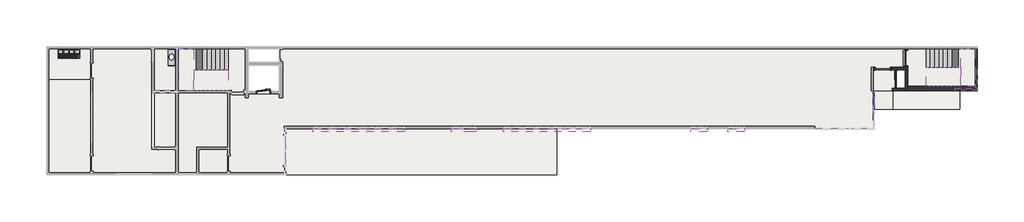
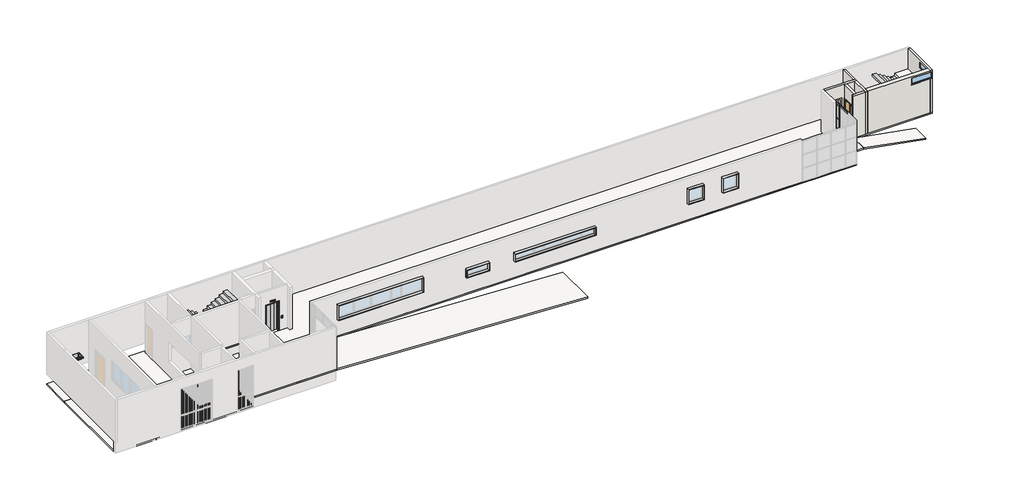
# One storey, part 3 of 3: 16 members, 8 slabs, 7 proxies, 7 walls, 5 plates, 4 furniture elements, 4 stair flights, 3 doors, 2 windows.
"""IFC4 building model written with IfcOpenShell, lengths in millimetres."""

from ifc_helpers import new_model, si_unit, frame, origin, origin_with_axes, place, context, project, spatial, polyline, outline, extrude, faceted_brep, transform, mapped, element, save
from components import generic_models_4572489e, generic_models_d0349c49, generic_models_a6553102, lift_side_door_aus_6_person_450kg_load_f6ec1226, moldura_02_moldura_02_4cf05638, moldura_03_moldura_03_e8738a7e, moldura_04_moldura_04_ba35fd01, moldura_moldura_8656ffbe, door_100_x_210_cm_40a421d0, door_1000_x_2100_mm_77822ca1, door_1200_x_2100mm_dfe7479b, furniture_e1e120f5, furniture_ba68da85, bancada_14b2be34, rectangular_mullion_4x4_cm_offset_2cm_f367b127, rectangular_mullion_4x4_cm_offset_2cm_0519d578, rectangular_mullion_4x4_cm_offset_2cm_dcd03643, rectangular_mullion_4x4_cm_offset_2cm_ddc5f716, rectangular_mullion_4x4_cm_offset_2cm_859eeaea, rectangular_mullion_4x4_cm_offset_2cm_f24be0eb, rectangular_mullion_4x4_cm_offset_2cm_d0d282c4, rectangular_mullion_4x4_cm_offset_2cm_647ac1ba, system_panel_vidro_2cm_b9699863, system_panel_vidro_2cm_0b33bc8a, system_panel_vidro_2cm_fc770f58, aluminum_exterior_window_2_wide_3886_1_20_x_0_50m_2c522d7e, aluminum_exterior_window_2_wide_3886_1_45_x_0_50m_3d7411e8

model = new_model("IFC4")

# Units and contexts
model_context = context("Model", 3, world=origin())
ifc_project = project(units=[si_unit("LENGTHUNIT", "METRE", prefix="MILLI")], contexts=[model_context])

# Site, building, storey
site = spatial("IfcSite", under=ifc_project)
building = spatial("IfcBuilding", under=site)
storey = spatial("IfcBuildingStorey", under=building, Name="PLANTA BAIXA TÉRREO", Elevation=800.0)

# Proxies
placement = place(None, origin())
generic_models_shape = generic_models_4572489e(model_context)
element("IfcBuildingElementProxy", 1, Name="Moldura Janelas Câmara : Moldura Janelas Câmara", ObjectType="Moldura Janelas Câmara : Moldura Janelas Câmara", at=placement, inside=storey, context=model_context, shape_type="MappedRepresentation", body=[
    mapped(generic_models_shape, transform((0.0, 0.0, 0.0), x_axis=(1.0, 0.0, 0.0), y_axis=(0.0, 1.0, 0.0), z_axis=(0.0, 0.0, 1.0))),
])
generic_models_2_shape = generic_models_d0349c49(model_context)
generic_models_3_shape = generic_models_a6553102(model_context)
element("IfcBuildingElementProxy", 2, Name="Tanque 2 cubas retangulares : Tanque 2 cubas retangulares", ObjectType="Tanque 2 cubas retangulares : Tanque 2 cubas retangulares", at=placement, inside=storey, context=model_context, shape_type="MappedRepresentation", body=[
    mapped(generic_models_2_shape, transform((-15954.6326345, -2911.1116245, 800.0), x_axis=(1.0, 0.0, 0.0), y_axis=(0.0, 1.0, 0.0), z_axis=(0.0, 0.0, 1.0))),
    mapped(generic_models_3_shape, transform((-15954.6326345, -2911.1116245, 800.0), x_axis=(1.0, 0.0, 0.0), y_axis=(0.0, 1.0, 0.0), z_axis=(0.0, 0.0, 1.0))),
])
lift_side_door_aus_6_person_450kg_load_shape = lift_side_door_aus_6_person_450kg_load_f6ec1226(model_context)
element("IfcBuildingElementProxy", 3, Name="Lift - Side Door (AUS) : 6 Person 450kg load", ObjectType="Lift - Side Door (AUS) : 6 Person 450kg load", at=placement, inside=storey, context=model_context, shape_type="MappedRepresentation", body=[
    mapped(lift_side_door_aus_6_person_450kg_load_shape, transform((-3085.7183499, -5716.1116245, 800.0), x_axis=(-1.0, 0.0, 0.0), y_axis=(0.0, -1.0, 0.0), z_axis=(0.0, 0.0, 1.0))),
])
moldura_02_moldura_02_shape = moldura_02_moldura_02_4cf05638(model_context)
element("IfcBuildingElementProxy", 4, Name="Moldura 02 : Moldura 02", ObjectType="Moldura 02 : Moldura 02", at=placement, inside=storey, context=model_context, shape_type="MappedRepresentation", body=[
    mapped(moldura_02_moldura_02_shape, transform((0.0, 0.0, 0.0), x_axis=(1.0, 0.0, 0.0), y_axis=(0.0, 1.0, 0.0), z_axis=(0.0, 0.0, 1.0))),
])
moldura_03_moldura_03_shape = moldura_03_moldura_03_e8738a7e(model_context)
element("IfcBuildingElementProxy", 5, Name="Moldura 03 : Moldura 03", ObjectType="Moldura 03 : Moldura 03", at=placement, inside=storey, context=model_context, shape_type="MappedRepresentation", body=[
    mapped(moldura_03_moldura_03_shape, transform((0.0, 0.0, 0.0), x_axis=(1.0, 0.0, 0.0), y_axis=(0.0, 1.0, 0.0), z_axis=(0.0, 0.0, 1.0))),
])
moldura_04_moldura_04_shape = moldura_04_moldura_04_ba35fd01(model_context)
element("IfcBuildingElementProxy", 6, Name="Moldura 04 : Moldura 04", ObjectType="Moldura 04 : Moldura 04", at=placement, inside=storey, context=model_context, shape_type="MappedRepresentation", body=[
    mapped(moldura_04_moldura_04_shape, transform((0.0, 0.0, 0.0), x_axis=(1.0, 0.0, 0.0), y_axis=(0.0, 1.0, 0.0), z_axis=(0.0, 0.0, 1.0))),
])
moldura_moldura_shape = moldura_moldura_8656ffbe(model_context)
element("IfcBuildingElementProxy", 7, Name="Moldura : Moldura", ObjectType="Moldura : Moldura", at=placement, inside=storey, context=model_context, shape_type="MappedRepresentation", body=[
    mapped(moldura_moldura_shape, transform((0.0, 0.0, 0.0), x_axis=(1.0, 0.0, 0.0), y_axis=(0.0, 1.0, 0.0), z_axis=(0.0, 0.0, 1.0))),
])

# Doors
door_100_x_210_cm_shape = door_100_x_210_cm_40a421d0(model_context)
element("IfcDoor", 8, ObjectType="Dutch_door_-_2_stacked_leaves_2298 : 100 x 210 cm", at=placement, inside=storey, context=model_context, shape_type="MappedRepresentation", body=[
    mapped(door_100_x_210_cm_shape, transform((38160.3673655, -3491.1116245, 800.0), x_axis=(0.0, 1.0, 0.0), y_axis=(-1.0, 0.0, 0.0), z_axis=(0.0, 0.0, 1.0))),
])
door_1000_x_2100_mm_shape = door_1000_x_2100_mm_77822ca1(model_context)
element("IfcDoor", 9, ObjectType="M_Folha única : 1000 x 2100 mm", at=placement, inside=storey, context=model_context, shape_type="MappedRepresentation", body=[
    mapped(door_1000_x_2100_mm_shape, transform((36635.3673655, -4166.1116245, 800.0), x_axis=(-1.0, 0.0, 0.0), y_axis=(0.0, -1.0, 0.0), z_axis=(0.0, 0.0, 1.0))),
])
door_1200_x_2100mm_shape = door_1200_x_2100mm_dfe7479b(model_context)
element("IfcDoor", 10, ObjectType="Porta veneziana de correr dupla sem revestimento : 1200 x 2100mm", at=placement, inside=storey, context=model_context, shape_type="MappedRepresentation", body=[
    mapped(door_1200_x_2100mm_shape, transform((37470.3673655, -4841.6581516, 800.0), x_axis=(0.0, -1.0, 0.0), y_axis=(1.0, 0.0, 0.0), z_axis=(0.0, 0.0, 1.0))),
])

# Furniture
furniture_shape = furniture_e1e120f5(model_context)
element("IfcFurniture", 11, ObjectType="Frontispício : Frontispício", at=placement, inside=storey, context=model_context, shape_type="MappedRepresentation", body=[
    mapped(furniture_shape, transform((-9054.6326345, -3822.9261126, 1100.0), x_axis=(0.0, -1.0, 0.0), y_axis=(1.0, 0.0, 0.0), z_axis=(0.0, 0.0, 1.0))),
])
furniture_2_shape = furniture_ba68da85(model_context)
element("IfcFurniture", 12, ObjectType="Frontispício : Frontispício", at=placement, inside=storey, context=model_context, shape_type="MappedRepresentation", body=[
    mapped(furniture_2_shape, transform((-9248.3102534, -2906.6037372, 1100.0), x_axis=(1.0000000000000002, 0.0, 0.0), y_axis=(0.0, 1.0000000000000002, 0.0), z_axis=(0.0, 0.0, 1.0))),
])
element("IfcFurniture", 13, ObjectType="Frontispício : Frontispício", at=placement, inside=storey, context=model_context, shape_type="MappedRepresentation", body=[
    mapped(furniture_2_shape, transform((-9248.3102534, -3976.6037316, 1100.0), x_axis=(1.0, 0.0, 0.0), y_axis=(0.0, 1.0, 0.0), z_axis=(0.0, 0.0, 1.0))),
])
bancada_shape = bancada_14b2be34(model_context)
element("IfcFurniture", 14, ObjectType="Bancada Retangular para lavatório Cuba Oval com Torneira Chanfro : Bancada", at=placement, inside=storey, context=model_context, shape_type="MappedRepresentation", body=[
    mapped(bancada_shape, transform((-9054.6326345, -3481.9034108, 100.0), x_axis=(0.0, -1.0, 0.0), y_axis=(1.0, 0.0, 0.0), z_axis=(0.0, 0.0, 1.0))),
])

# Members
rectangular_mullion_4x4_cm_offset_2cm_shape = rectangular_mullion_4x4_cm_offset_2cm_f367b127(model_context)
element("IfcMember", 15, ObjectType="Rectangular Mullion : 4x4 cm - offset 2cm", at=placement, inside=storey, context=model_context, shape_type="MappedRepresentation", body=[
    mapped(rectangular_mullion_4x4_cm_offset_2cm_shape, transform((36035.3673655, -6041.1116242, 840.0), x_axis=(0.0, 1.0, 0.0), y_axis=(1.0, 0.0, 0.0), z_axis=(0.0, 0.0, -1.0))),
])
element("IfcMember", 16, ObjectType="Rectangular Mullion : 4x4 cm - offset 2cm", at=placement, inside=storey, context=model_context, shape_type="MappedRepresentation", body=[
    mapped(rectangular_mullion_4x4_cm_offset_2cm_shape, transform((36035.3673655, -6041.1116242, 1840.0), x_axis=(0.0, 1.0, 0.0), y_axis=(1.0, 0.0, 0.0), z_axis=(0.0, 0.0, -1.0))),
])
element("IfcMember", 17, ObjectType="Rectangular Mullion : 4x4 cm - offset 2cm", at=placement, inside=storey, context=model_context, shape_type="MappedRepresentation", body=[
    mapped(rectangular_mullion_4x4_cm_offset_2cm_shape, transform((36035.3673655, -6041.1116242, 2840.0), x_axis=(0.0, 1.0, 0.0), y_axis=(1.0, 0.0, 0.0), z_axis=(0.0, 0.0, -1.0))),
])
rectangular_mullion_4x4_cm_offset_2cm_2_shape = rectangular_mullion_4x4_cm_offset_2cm_0519d578(model_context)
element("IfcMember", 18, ObjectType="Rectangular Mullion : 4x4 cm - offset 2cm", at=placement, inside=storey, context=model_context, shape_type="MappedRepresentation", body=[
    mapped(rectangular_mullion_4x4_cm_offset_2cm_2_shape, transform((36035.3673655, -5591.1116245, 840.0), x_axis=(0.0, 1.0, 0.0), y_axis=(1.0, 0.0, 0.0), z_axis=(0.0, 0.0, -1.0))),
])
rectangular_mullion_4x4_cm_offset_2cm_3_shape = rectangular_mullion_4x4_cm_offset_2cm_dcd03643(model_context)
element("IfcMember", 19, ObjectType="Rectangular Mullion : 4x4 cm - offset 2cm", at=placement, inside=storey, context=model_context, shape_type="MappedRepresentation", body=[
    mapped(rectangular_mullion_4x4_cm_offset_2cm_3_shape, transform((36035.3673655, -6041.1116242, 2800.0), x_axis=(0.0, 0.0, 1.0), y_axis=(1.0, 0.0, 0.0), z_axis=(0.0, 1.0, 0.0))),
])
element("IfcMember", 20, ObjectType="Rectangular Mullion : 4x4 cm - offset 2cm", at=placement, inside=storey, context=model_context, shape_type="MappedRepresentation", body=[
    mapped(rectangular_mullion_4x4_cm_offset_2cm_3_shape, transform((36035.3673655, -6041.1116242, 3800.0), x_axis=(0.0, 0.0, 1.0), y_axis=(1.0, 0.0, 0.0), z_axis=(0.0, 1.0, 0.0))),
])
rectangular_mullion_4x4_cm_offset_2cm_4_shape = rectangular_mullion_4x4_cm_offset_2cm_ddc5f716(model_context)
element("IfcMember", 21, ObjectType="Rectangular Mullion : 4x4 cm - offset 2cm", at=placement, inside=storey, context=model_context, shape_type="MappedRepresentation", body=[
    mapped(rectangular_mullion_4x4_cm_offset_2cm_4_shape, transform((36035.3673655, -6041.1116242, 4000.0), x_axis=(0.0, 0.0, 1.0), y_axis=(1.0, 0.0, 0.0), z_axis=(0.0, 1.0, 0.0))),
])
rectangular_mullion_4x4_cm_offset_2cm_5_shape = rectangular_mullion_4x4_cm_offset_2cm_859eeaea(model_context)
element("IfcMember", 22, ObjectType="Rectangular Mullion : 4x4 cm - offset 2cm", at=placement, inside=storey, context=model_context, shape_type="MappedRepresentation", body=[
    mapped(rectangular_mullion_4x4_cm_offset_2cm_5_shape, transform((36035.3673655, -6041.1116242, 3840.0), x_axis=(0.0, 1.0, 0.0), y_axis=(1.0, 0.0, 0.0), z_axis=(0.0, 0.0, -1.0))),
])
element("IfcMember", 23, ObjectType="Rectangular Mullion : 4x4 cm - offset 2cm", at=placement, inside=storey, context=model_context, shape_type="MappedRepresentation", body=[
    mapped(rectangular_mullion_4x4_cm_offset_2cm_4_shape, transform((36035.3673655, -5591.1116245, 1800.0), x_axis=(0.0, 1.0, 0.0), y_axis=(1.0, 0.0, 0.0), z_axis=(0.0, 0.0, -1.0))),
])
element("IfcMember", 24, ObjectType="Rectangular Mullion : 4x4 cm - offset 2cm", at=placement, inside=storey, context=model_context, shape_type="MappedRepresentation", body=[
    mapped(rectangular_mullion_4x4_cm_offset_2cm_4_shape, transform((36035.3673655, -5591.1116245, 2800.0), x_axis=(0.0, 1.0, 0.0), y_axis=(1.0, 0.0, 0.0), z_axis=(0.0, 0.0, -1.0))),
])
rectangular_mullion_4x4_cm_offset_2cm_6_shape = rectangular_mullion_4x4_cm_offset_2cm_f24be0eb(model_context)
element("IfcMember", 25, ObjectType="Rectangular Mullion : 4x4 cm - offset 2cm", at=placement, inside=storey, context=model_context, shape_type="MappedRepresentation", body=[
    mapped(rectangular_mullion_4x4_cm_offset_2cm_6_shape, transform((36035.3673655, -5591.1116245, 3800.0), x_axis=(0.0, 1.0, 0.0), y_axis=(1.0, 0.0, 0.0), z_axis=(0.0, 0.0, -1.0))),
])
rectangular_mullion_4x4_cm_offset_2cm_7_shape = rectangular_mullion_4x4_cm_offset_2cm_d0d282c4(model_context)
element("IfcMember", 26, ObjectType="Rectangular Mullion : 4x4 cm - offset 2cm", at=placement, inside=storey, context=model_context, shape_type="MappedRepresentation", body=[
    mapped(rectangular_mullion_4x4_cm_offset_2cm_7_shape, transform((36035.3673655, -5591.1116245, 4000.0), x_axis=(0.0, 0.0, 1.0), y_axis=(1.0, 0.0, 0.0), z_axis=(0.0, 1.0, 0.0))),
])
element("IfcMember", 27, ObjectType="Rectangular Mullion : 4x4 cm - offset 2cm", at=placement, inside=storey, context=model_context, shape_type="MappedRepresentation", body=[
    mapped(rectangular_mullion_4x4_cm_offset_2cm_7_shape, transform((36035.3673655, -6041.1116242, 800.0), x_axis=(0.0, 0.0, -1.0), y_axis=(1.0, 0.0, 0.0), z_axis=(0.0, -1.0, 0.0))),
])
rectangular_mullion_4x4_cm_offset_2cm_8_shape = rectangular_mullion_4x4_cm_offset_2cm_647ac1ba(model_context)
element("IfcMember", 28, ObjectType="Rectangular Mullion : 4x4 cm - offset 2cm", at=placement, inside=storey, context=model_context, shape_type="MappedRepresentation", body=[
    mapped(rectangular_mullion_4x4_cm_offset_2cm_8_shape, transform((36035.3673655, -5631.1116245, 1800.0), x_axis=(0.0, 0.0, 1.0), y_axis=(1.0, 0.0, 0.0), z_axis=(0.0, 1.0, 0.0))),
])
element("IfcMember", 29, ObjectType="Rectangular Mullion : 4x4 cm - offset 2cm", at=placement, inside=storey, context=model_context, shape_type="MappedRepresentation", body=[
    mapped(rectangular_mullion_4x4_cm_offset_2cm_8_shape, transform((36035.3673655, -5631.1116245, 2800.0), x_axis=(0.0, 0.0, 1.0), y_axis=(1.0, 0.0, 0.0), z_axis=(0.0, 1.0, 0.0))),
])
element("IfcMember", 30, ObjectType="Rectangular Mullion : 4x4 cm - offset 2cm", at=placement, inside=storey, context=model_context, shape_type="MappedRepresentation", body=[
    mapped(rectangular_mullion_4x4_cm_offset_2cm_8_shape, transform((36035.3673655, -5631.1116245, 3800.0), x_axis=(0.0, 0.0, 1.0), y_axis=(1.0, 0.0, 0.0), z_axis=(0.0, 1.0, 0.0))),
])

# Plates
system_panel_vidro_2cm_shape = system_panel_vidro_2cm_b9699863(model_context)
element("IfcPlate", 31, ObjectType="System Panel : Vidro 2cm", at=placement, inside=storey, context=model_context, shape_type="MappedRepresentation", body=[
    mapped(system_panel_vidro_2cm_shape, transform((36035.3673655, -6521.1116242, 3840.0), x_axis=(0.0, 1.0, 0.0), y_axis=(-1.0, 0.0, 0.0), z_axis=(0.0, 0.0, 1.0))),
])
system_panel_vidro_2cm_2_shape = system_panel_vidro_2cm_0b33bc8a(model_context)
element("IfcPlate", 32, ObjectType="System Panel : Vidro 2cm", at=placement, inside=storey, context=model_context, shape_type="MappedRepresentation", body=[
    mapped(system_panel_vidro_2cm_2_shape, transform((36035.3673655, -5816.1116244, 840.0), x_axis=(0.0, 1.0, 0.0), y_axis=(-1.0, 0.0, 0.0), z_axis=(0.0, 0.0, 1.0))),
])
element("IfcPlate", 33, ObjectType="System Panel : Vidro 2cm", at=placement, inside=storey, context=model_context, shape_type="MappedRepresentation", body=[
    mapped(system_panel_vidro_2cm_2_shape, transform((36035.3673655, -5816.1116244, 1840.0), x_axis=(0.0, 1.0, 0.0), y_axis=(-1.0, 0.0, 0.0), z_axis=(0.0, 0.0, 1.0))),
])
element("IfcPlate", 34, ObjectType="System Panel : Vidro 2cm", at=placement, inside=storey, context=model_context, shape_type="MappedRepresentation", body=[
    mapped(system_panel_vidro_2cm_2_shape, transform((36035.3673655, -5816.1116244, 2840.0), x_axis=(0.0, 1.0, 0.0), y_axis=(-1.0, 0.0, 0.0), z_axis=(0.0, 0.0, 1.0))),
])
system_panel_vidro_2cm_3_shape = system_panel_vidro_2cm_fc770f58(model_context)
element("IfcPlate", 35, ObjectType="System Panel : Vidro 2cm", at=placement, inside=storey, context=model_context, shape_type="MappedRepresentation", body=[
    mapped(system_panel_vidro_2cm_3_shape, transform((36035.3673655, -5816.1116244, 3840.0), x_axis=(0.0, 1.0, 0.0), y_axis=(-1.0, 0.0, 0.0), z_axis=(0.0, 0.0, 1.0))),
])

# Slabs
element("IfcSlab", 36, ObjectType="Genérico 100 mm", at=placement, inside=storey, context=model_context, shape_type="Brep", body=[
    faceted_brep([(-1954.6326345, -11041.1116245, 700.0), (-2029.6326345, -11041.1116245, 700.0), (-7704.6326345, -11041.1116245, 700.0), (-7704.6326345, -10891.1116245, 700.0), (-7704.6326345, -9241.1116245, 700.0), (-7554.6326345, -9241.1116245, 700.0), (-5704.6326345, -9241.1116245, 700.0), (-5704.6326345, -5741.1116245, 700.0), (-9054.6326345, -5741.1116245, 700.0), (-9054.6326345, -5591.1116245, 700.0), (-9054.6326345, -2891.1116245, 700.0), (-9054.6326345, -2741.1116245, 700.0), (42605.3673655, -2741.1116245, 700.0), (42755.3673655, -2741.1116245, 700.0), (42755.3673655, -5441.1116245, 700.0), (42755.3673655, -5591.1116245, 700.0), (36035.3673655, -5591.1116245, 700.0), (36035.3673655, -8041.1116245, 700.0), (-1954.6326345, -8041.1116245, 700.0), (-2354.6326345, -3941.1116245, 700.0), (-4354.6326345, -3941.1116245, 700.0), (-4354.6326345, -5791.1116245, 700.0), (-2354.6326345, -5791.1116245, 700.0), (38085.3673655, -4241.1116245, 700.0), (37545.3673655, -4241.1116245, 700.0), (37545.3673655, -5441.1116245, 700.0), (38085.3673655, -5441.1116245, 700.0), (-2354.6326345, -2891.1116245, 700.0), (-4354.6326345, -2891.1116245, 700.0), (-4354.6326345, -3741.1116245, 700.0), (-2354.6326345, -3741.1116245, 700.0), (-1954.6326345, -11041.1116245, 800.0), (-1954.6326345, -8041.1116245, 800.0), (36035.3673655, -8041.1116245, 800.0), (36035.3673655, -5591.1116245, 800.0), (38235.3673655, -5591.1116245, 800.0), (42605.3673655, -5591.1116245, 800.0), (42755.3673655, -5591.1116245, 800.0), (42755.3673655, -2891.1116245, 800.0), (42755.3673655, -2741.1116245, 800.0), (-2254.6326345, -2741.1116245, 800.0), (-9054.6326345, -2741.1116245, 800.0), (-9054.6326345, -2891.1116245, 800.0), (-9054.6326345, -5591.1116245, 800.0), (-9054.6326345, -5741.1116245, 800.0), (-5704.6326345, -5741.1116245, 800.0), (-5704.6326345, -9241.1116245, 800.0), (-7554.6326345, -9241.1116245, 800.0), (-7704.6326345, -9241.1116245, 800.0), (-7704.6326345, -10891.1116245, 800.0), (-7704.6326345, -11041.1116245, 800.0), (-2029.6326345, -11041.1116245, 800.0), (-2354.6326345, -2891.1116245, 800.0), (-2354.6326345, -3741.1116245, 800.0), (-4354.6326345, -3741.1116245, 800.0), (-4354.6326345, -2891.1116245, 800.0), (38085.3673655, -4241.1116245, 800.0), (38085.3673655, -5441.1116245, 800.0), (37545.3673655, -5441.1116245, 800.0), (37545.3673655, -4241.1116245, 800.0), (-2354.6326345, -3941.1116245, 800.0), (-2354.6326345, -5791.1116245, 800.0), (-4354.6326345, -5791.1116245, 800.0), (-4354.6326345, -3941.1116245, 800.0)], [[[0, 1, 2, 3, 4, 5, 6, 7, 8, 9, 10, 11, 12, 13, 14, 15, 16, 17, 18], [19, 20, 21, 22], [23, 24, 25, 26], [27, 28, 29, 30]], [[31, 32, 33, 34, 35, 36, 37, 38, 39, 40, 41, 42, 43, 44, 45, 46, 47, 48, 49, 50, 51], [52, 53, 54, 55], [56, 57, 58, 59], [60, 61, 62, 63]], [[13, 12, 11, 41, 40, 39]], [[15, 14, 13, 39, 38, 37]], [[16, 15, 37, 36, 35, 34]], [[17, 16, 34, 33]], [[18, 17, 33, 32]], [[0, 18, 32, 31]], [[2, 1, 0, 31, 51, 50]], [[28, 27, 52, 55]], [[29, 28, 55, 54]], [[30, 29, 54, 53]], [[27, 30, 53, 52]], [[20, 19, 60, 63]], [[21, 20, 63, 62]], [[22, 21, 62, 61]], [[19, 22, 61, 60]], [[24, 23, 56, 59]], [[25, 24, 59, 58]], [[26, 25, 58, 57]], [[23, 26, 57, 56]], [[4, 3, 2, 50, 49, 48]], [[6, 5, 4, 48, 47, 46]], [[7, 6, 46, 45]], [[8, 7, 45, 44]], [[11, 10, 9, 8, 44, 43, 42, 41]]]),
])
element("IfcSlab", 37, ObjectType="Genérico 100 mm", at=placement, inside=storey, context=model_context, shape_type="SweptSolid", body=[
    extrude(outline(polyline([(699.8942559, -1934.6326345), (-105.1057441, 15565.3673655), (-5.0, 15565.3673655), (800.0, -1934.6326345), (699.8942559, -1934.6326345)])), frame((0.0, -11041.1116245, 0.0), z_axis=(0.0, 1.0, 0.0), x_axis=(0.0, 0.0, 1.0)), (0.0, 0.0, 1.0), 3000.0),
])
element("IfcSlab", 38, ObjectType="Genérico 100 mm", at=placement, inside=storey, context=model_context, shape_type="SweptSolid", body=[
    extrude(outline(polyline([(36075.3673655, -6791.1116245), (36075.3673655, -5591.1116245), (37275.3673655, -5591.1116245), (37275.3673655, -6791.1116245), (36075.3673655, -6791.1116245)])), frame((0.0, 0.0, 700.0), z_axis=(0.0, 0.0, 1.0), x_axis=(1.0, 0.0, 0.0)), (0.0, 0.0, 1.0), 100.0),
])
element("IfcSlab", 39, ObjectType="Genérico 100 mm", at=placement, inside=storey, context=model_context, shape_type="SweptSolid", body=[
    extrude(outline(polyline([(698.3333393, 37275.3673655), (-93.6652207, 41595.3673655), (8.00144, 41595.3673655), (800.0, 37275.3673655), (698.3333393, 37275.3673655)])), frame((0.0, -6791.1116245, 0.0), z_axis=(0.0, 1.0, 0.0), x_axis=(0.0, 0.0, 1.0)), (0.0, 0.0, 1.0), 1200.0),
])
element("IfcSlab", 40, ObjectType="Genérico 100 mm", at=placement, inside=storey, context=model_context, shape_type="Brep", body=[
    faceted_brep([(-7704.6326345, -9241.1116245, 0.0), (-7704.6326345, -11041.1116245, 0.0), (-14554.6326345, -11041.1116245, 0.0), (-14554.6326345, -4891.1116245, 0.0), (-17404.6326345, -4891.1116245, 0.0), (-17404.6326345, -2741.1116245, 0.0), (-9054.6326345, -2741.1116245, 0.0), (-9054.6326345, -2891.1116245, 0.0), (-9054.6326345, -5741.1116245, 0.0), (-5704.6326345, -5741.1116245, 0.0), (-5704.6326345, -9241.1116245, 0.0), (-7554.6326345, -9241.1116245, 0.0), (-7704.6326345, -9241.1116245, 100.0), (-5704.6326345, -9241.1116245, 100.0), (-5704.6326345, -5741.1116245, 100.0), (-9054.6326345, -5741.1116245, 100.0), (-9054.6326345, -2891.1116245, 100.0), (-9054.6326345, -2741.1116245, 100.0), (-17404.6326345, -2741.1116245, 100.0), (-17404.6326345, -4891.1116245, 100.0), (-14554.6326345, -4891.1116245, 100.0), (-14554.6326345, -11041.1116245, 100.0), (-7704.6326345, -11041.1116245, 100.0)], [[[0, 1, 2, 3, 4, 5, 6, 7, 8, 9, 10, 11]], [[12, 13, 14, 15, 16, 17, 18, 19, 20, 21, 22]], [[1, 0, 12, 22]], [[2, 1, 22, 21]], [[3, 2, 21, 20]], [[4, 3, 20, 19]], [[5, 4, 19, 18]], [[6, 5, 18, 17]], [[7, 6, 17, 16]], [[8, 7, 16, 15]], [[9, 8, 15, 14]], [[10, 9, 14, 13]], [[0, 11, 10, 13, 12]]]),
])
element("IfcSlab", 41, ObjectType="Concreto 10cm", at=placement, inside=storey, context=model_context, shape_type="Brep", body=[
    faceted_brep([(41675.3673655, -2891.1116245, 2400.0), (41675.3673655, -4091.1116245, 2400.0), (41675.3673655, -5291.1116245, 2400.0), (42605.3673655, -5291.1116245, 2400.0), (42605.3673655, -2891.1116245, 2400.0), (41984.4316976, -2891.1116245, 2400.0), (41675.3673655, -2891.1116245, 2222.2222222), (41675.3673655, -2891.1116245, 2103.7686781), (41675.3673655, -4091.1116245, 2103.7686781), (41675.3673655, -4091.1116245, 2222.2222222), (41675.3673655, -4091.1116245, 2300.0), (41675.3673655, -5291.1116245, 2300.0), (42605.3673655, -5291.1116245, 2300.0), (42605.3673655, -2891.1116245, 2300.0), (41984.4316976, -2891.1116245, 2300.0), (41984.4316976, -4091.1116245, 2300.0)], [[[0, 1, 2, 3, 4, 5]], [[1, 0, 6, 7, 8, 9, 10]], [[2, 1, 10, 11]], [[3, 2, 11, 12]], [[4, 3, 12, 13]], [[7, 6, 0, 5, 4, 13, 14]], [[15, 14, 13, 12, 11, 10]], [[14, 15, 8, 7]], [[15, 10, 9, 8]]]),
])
element("IfcSlab", 42, ObjectType="Concreto 10cm", at=placement, inside=storey, context=model_context, shape_type="Brep", body=[
    faceted_brep([(-7894.6326345, -4241.1116245, 2400.0), (-7894.6326345, -2891.1116245, 2400.0), (-8203.6969665, -2891.1116245, 2400.0), (-8904.6326345, -2891.1116245, 2400.0), (-8904.6326345, -5591.1116245, 2400.0), (-7894.6326345, -5591.1116245, 2400.0), (-7894.6326345, -4241.1116245, 2300.0), (-7894.6326345, -4241.1116245, 2222.2222222), (-7894.6326345, -4241.1116245, 2103.7686781), (-7894.6326345, -2891.1116245, 2103.7686781), (-7894.6326345, -2891.1116245, 2222.2222222), (-8203.6969665, -2891.1116245, 2300.0), (-8904.6326345, -2891.1116245, 2300.0), (-8904.6326345, -5591.1116245, 2300.0), (-7894.6326345, -5591.1116245, 2300.0), (-8203.6969665, -4241.1116245, 2300.0)], [[[0, 1, 2, 3, 4, 5]], [[1, 0, 6, 7, 8, 9, 10]], [[1, 10, 9, 11, 12, 3, 2]], [[4, 3, 12, 13]], [[5, 4, 13, 14]], [[0, 5, 14, 6]], [[11, 15, 6, 14, 13, 12]], [[15, 11, 9, 8]], [[6, 15, 8, 7]]]),
])
element("IfcSlab", 43, ObjectType="GRAMA 2", at=placement, inside=storey, context=model_context, shape_type="SweptSolid", body=[
    extrude(outline(polyline([(-17404.6326345, -4891.1116245), (-14554.6326345, -4891.1116245), (-14554.6326345, -11041.1116245), (-17404.6326345, -11041.1116245), (-17404.6326345, -4891.1116245)])), origin_with_axes(), (0.0, 0.0, 1.0), 100.0),
])

# Stair flights
element("IfcStairFlight", 44, ObjectType="Concreto", at=placement, inside=storey, context=model_context, shape_type="Brep", body=[
    faceted_brep([(39715.3673655, -2891.1116245, 977.7777778), (39435.3673655, -2891.1116245, 977.7777778), (39435.3673655, -4091.1116245, 977.7777778), (39715.3673655, -4091.1116245, 977.7777778), (39715.3673655, -2891.1116245, 859.3242336), (39621.9316976, -2891.1116245, 800.0), (39435.3673655, -2891.1116245, 800.0), (39435.3673655, -4091.1116245, 800.0), (39621.9316976, -4091.1116245, 800.0), (39715.3673655, -4091.1116245, 859.3242336), (39995.3673655, -2891.1116245, 1155.5555556), (39715.3673655, -2891.1116245, 1155.5555556), (39715.3673655, -4091.1116245, 1155.5555556), (39995.3673655, -4091.1116245, 1155.5555556), (39995.3673655, -2891.1116245, 1037.1020114), (39995.3673655, -4091.1116245, 1037.1020114), (40275.3673655, -2891.1116245, 1333.3333333), (39995.3673655, -2891.1116245, 1333.3333333), (39995.3673655, -4091.1116245, 1333.3333333), (40275.3673655, -4091.1116245, 1333.3333333), (40275.3673655, -2891.1116245, 1214.8797892), (40275.3673655, -4091.1116245, 1214.8797892), (40555.3673655, -2891.1116245, 1511.1111111), (40275.3673655, -2891.1116245, 1511.1111111), (40275.3673655, -4091.1116245, 1511.1111111), (40555.3673655, -4091.1116245, 1511.1111111), (40555.3673655, -2891.1116245, 1392.6575669), (40555.3673655, -4091.1116245, 1392.6575669), (40835.3673655, -2891.1116245, 1688.8888889), (40555.3673655, -2891.1116245, 1688.8888889), (40555.3673655, -4091.1116245, 1688.8888889), (40835.3673655, -4091.1116245, 1688.8888889), (40835.3673655, -2891.1116245, 1570.4353447), (40835.3673655, -4091.1116245, 1570.4353447), (41115.3673655, -2891.1116245, 1866.6666667), (40835.3673655, -2891.1116245, 1866.6666667), (40835.3673655, -4091.1116245, 1866.6666667), (41115.3673655, -4091.1116245, 1866.6666667), (41115.3673655, -2891.1116245, 1748.2131225), (41115.3673655, -4091.1116245, 1748.2131225), (41395.3673655, -2891.1116245, 2044.4444444), (41115.3673655, -2891.1116245, 2044.4444444), (41115.3673655, -4091.1116245, 2044.4444444), (41395.3673655, -4091.1116245, 2044.4444444), (41395.3673655, -2891.1116245, 1925.9909003), (41395.3673655, -4091.1116245, 1925.9909003), (41675.3673655, -2891.1116245, 2222.2222222), (41395.3673655, -2891.1116245, 2222.2222222), (41395.3673655, -4091.1116245, 2222.2222222), (41675.3673655, -4091.1116245, 2222.2222222), (41675.3673655, -2891.1116245, 2103.7686781), (41675.3673655, -4091.1116245, 2103.7686781)], [[[0, 1, 2, 3]], [[1, 0, 4, 5, 6]], [[2, 1, 6, 7]], [[3, 2, 7, 8, 9]], [[10, 11, 12, 13]], [[11, 10, 14, 4, 0]], [[0, 3, 12, 11]], [[13, 12, 3, 9, 15]], [[16, 17, 18, 19]], [[17, 16, 20, 14, 10]], [[10, 13, 18, 17]], [[19, 18, 13, 15, 21]], [[22, 23, 24, 25]], [[23, 22, 26, 20, 16]], [[16, 19, 24, 23]], [[25, 24, 19, 21, 27]], [[28, 29, 30, 31]], [[29, 28, 32, 26, 22]], [[22, 25, 30, 29]], [[31, 30, 25, 27, 33]], [[34, 35, 36, 37]], [[35, 34, 38, 32, 28]], [[28, 31, 36, 35]], [[37, 36, 31, 33, 39]], [[40, 41, 42, 43]], [[41, 40, 44, 38, 34]], [[34, 37, 42, 41]], [[43, 42, 37, 39, 45]], [[46, 47, 48, 49]], [[47, 46, 50, 44, 40]], [[40, 43, 48, 47]], [[49, 48, 43, 45, 51]], [[46, 49, 51, 50]], [[7, 6, 5, 8]], [[8, 5, 4, 14, 20, 26, 32, 38, 44, 50, 51, 45, 39, 33, 27, 21, 15, 9]]]),
])
element("IfcStairFlight", 45, ObjectType="Concreto", at=placement, inside=storey, context=model_context, shape_type="Brep", body=[
    faceted_brep([(41675.3673655, -5291.1116245, 2577.7777778), (41675.3673655, -4091.1116245, 2577.7777778), (41646.3030335, -4091.1116245, 2577.7777778), (41395.3673655, -4091.1116245, 2577.7777778), (41395.3673655, -5291.1116245, 2577.7777778), (41646.3030335, -5291.1116245, 2577.7777778), (41395.3673655, -5291.1116245, 2459.3242336), (41646.3030335, -5291.1116245, 2300.0), (41675.3673655, -5291.1116245, 2300.0), (41675.3673655, -5291.1116245, 2400.0), (41675.3673655, -4091.1116245, 2300.0), (41646.3030335, -4091.1116245, 2300.0), (41395.3673655, -4091.1116245, 2459.3242336), (41115.3673655, -5291.1116245, 2755.5555556), (41395.3673655, -5291.1116245, 2755.5555556), (41395.3673655, -4091.1116245, 2755.5555556), (41115.3673655, -4091.1116245, 2755.5555556), (41115.3673655, -5291.1116245, 2637.1020114), (41115.3673655, -4091.1116245, 2637.1020114), (40835.3673655, -5291.1116245, 2933.3333333), (41115.3673655, -5291.1116245, 2933.3333333), (41115.3673655, -4091.1116245, 2933.3333333), (40835.3673655, -4091.1116245, 2933.3333333), (40835.3673655, -5291.1116245, 2814.8797892), (40835.3673655, -4091.1116245, 2814.8797892), (40555.3673655, -5291.1116245, 3111.1111111), (40835.3673655, -5291.1116245, 3111.1111111), (40835.3673655, -4091.1116245, 3111.1111111), (40555.3673655, -4091.1116245, 3111.1111111), (40555.3673655, -5291.1116245, 2992.6575669), (40555.3673655, -4091.1116245, 2992.6575669), (40275.3673655, -5291.1116245, 3288.8888889), (40555.3673655, -5291.1116245, 3288.8888889), (40555.3673655, -4091.1116245, 3288.8888889), (40275.3673655, -4091.1116245, 3288.8888889), (40275.3673655, -5291.1116245, 3170.4353447), (40275.3673655, -4091.1116245, 3170.4353447), (39995.3673655, -5291.1116245, 3466.6666667), (40275.3673655, -5291.1116245, 3466.6666667), (40275.3673655, -4091.1116245, 3466.6666667), (39995.3673655, -4091.1116245, 3466.6666667), (39995.3673655, -5291.1116245, 3348.2131225), (39995.3673655, -4091.1116245, 3348.2131225), (39715.3673655, -5291.1116245, 3644.4444444), (39995.3673655, -5291.1116245, 3644.4444444), (39995.3673655, -4091.1116245, 3644.4444444), (39715.3673655, -4091.1116245, 3644.4444444), (39715.3673655, -5291.1116245, 3525.9909003), (39715.3673655, -4091.1116245, 3525.9909003), (39435.3673655, -5291.1116245, 3822.2222222), (39715.3673655, -5291.1116245, 3822.2222222), (39715.3673655, -4091.1116245, 3822.2222222), (39435.3673655, -4091.1116245, 3822.2222222), (39435.3673655, -5291.1116245, 3703.7686781), (39435.3673655, -4091.1116245, 3703.7686781)], [[[0, 1, 2, 3, 4, 5]], [[4, 6, 7, 8, 9, 0, 5]], [[1, 0, 9, 8, 10]], [[1, 10, 11, 12, 3, 2]], [[13, 14, 15, 16]], [[14, 13, 17, 6, 4]], [[15, 14, 4, 3]], [[16, 15, 3, 12, 18]], [[19, 20, 21, 22]], [[20, 19, 23, 17, 13]], [[21, 20, 13, 16]], [[22, 21, 16, 18, 24]], [[25, 26, 27, 28]], [[26, 25, 29, 23, 19]], [[27, 26, 19, 22]], [[28, 27, 22, 24, 30]], [[31, 32, 33, 34]], [[32, 31, 35, 29, 25]], [[33, 32, 25, 28]], [[34, 33, 28, 30, 36]], [[37, 38, 39, 40]], [[38, 37, 41, 35, 31]], [[39, 38, 31, 34]], [[40, 39, 34, 36, 42]], [[43, 44, 45, 46]], [[44, 43, 47, 41, 37]], [[45, 44, 37, 40]], [[46, 45, 40, 42, 48]], [[49, 50, 51, 52]], [[50, 49, 53, 47, 43]], [[51, 50, 43, 46]], [[52, 51, 46, 48, 54]], [[49, 52, 54, 53]], [[11, 7, 6, 17, 23, 29, 35, 41, 47, 53, 54, 48, 42, 36, 30, 24, 18, 12]], [[7, 11, 10, 8]]]),
])
element("IfcStairFlight", 46, ObjectType="Concreto", at=placement, inside=storey, context=model_context, shape_type="Brep", body=[
    faceted_brep([(-5934.6326345, -4241.1116245, 977.7777778), (-5654.6326345, -4241.1116245, 977.7777778), (-5654.6326345, -2891.1116245, 977.7777778), (-5934.6326345, -2891.1116245, 977.7777778), (-5934.6326345, -4241.1116245, 859.3242336), (-5841.1969665, -4241.1116245, 800.0), (-5654.6326345, -4241.1116245, 800.0), (-5654.6326345, -2891.1116245, 800.0), (-5841.1969665, -2891.1116245, 800.0), (-5934.6326345, -2891.1116245, 859.3242336), (-6214.6326345, -4241.1116245, 1155.5555556), (-5934.6326345, -4241.1116245, 1155.5555556), (-5934.6326345, -2891.1116245, 1155.5555556), (-6214.6326345, -2891.1116245, 1155.5555556), (-6214.6326345, -4241.1116245, 1037.1020114), (-6214.6326345, -2891.1116245, 1037.1020114), (-6494.6326345, -4241.1116245, 1333.3333333), (-6214.6326345, -4241.1116245, 1333.3333333), (-6214.6326345, -2891.1116245, 1333.3333333), (-6494.6326345, -2891.1116245, 1333.3333333), (-6494.6326345, -4241.1116245, 1214.8797892), (-6494.6326345, -2891.1116245, 1214.8797892), (-6774.6326345, -4241.1116245, 1511.1111111), (-6494.6326345, -4241.1116245, 1511.1111111), (-6494.6326345, -2891.1116245, 1511.1111111), (-6774.6326345, -2891.1116245, 1511.1111111), (-6774.6326345, -4241.1116245, 1392.6575669), (-6774.6326345, -2891.1116245, 1392.6575669), (-7054.6326345, -4241.1116245, 1688.8888889), (-6774.6326345, -4241.1116245, 1688.8888889), (-6774.6326345, -2891.1116245, 1688.8888889), (-7054.6326345, -2891.1116245, 1688.8888889), (-7054.6326345, -4241.1116245, 1570.4353447), (-7054.6326345, -2891.1116245, 1570.4353447), (-7334.6326345, -4241.1116245, 1866.6666667), (-7054.6326345, -4241.1116245, 1866.6666667), (-7054.6326345, -2891.1116245, 1866.6666667), (-7334.6326345, -2891.1116245, 1866.6666667), (-7334.6326345, -4241.1116245, 1748.2131225), (-7334.6326345, -2891.1116245, 1748.2131225), (-7614.6326345, -4241.1116245, 2044.4444444), (-7334.6326345, -4241.1116245, 2044.4444444), (-7334.6326345, -2891.1116245, 2044.4444444), (-7614.6326345, -2891.1116245, 2044.4444444), (-7614.6326345, -4241.1116245, 1925.9909003), (-7614.6326345, -2891.1116245, 1925.9909003), (-7894.6326345, -4241.1116245, 2222.2222222), (-7614.6326345, -4241.1116245, 2222.2222222), (-7614.6326345, -2891.1116245, 2222.2222222), (-7894.6326345, -2891.1116245, 2222.2222222), (-7894.6326345, -4241.1116245, 2103.7686781), (-7894.6326345, -2891.1116245, 2103.7686781)], [[[0, 1, 2, 3]], [[1, 0, 4, 5, 6]], [[2, 1, 6, 7]], [[3, 2, 7, 8, 9]], [[10, 11, 12, 13]], [[11, 10, 14, 4, 0]], [[0, 3, 12, 11]], [[13, 12, 3, 9, 15]], [[16, 17, 18, 19]], [[17, 16, 20, 14, 10]], [[10, 13, 18, 17]], [[19, 18, 13, 15, 21]], [[22, 23, 24, 25]], [[23, 22, 26, 20, 16]], [[16, 19, 24, 23]], [[25, 24, 19, 21, 27]], [[28, 29, 30, 31]], [[29, 28, 32, 26, 22]], [[22, 25, 30, 29]], [[31, 30, 25, 27, 33]], [[34, 35, 36, 37]], [[35, 34, 38, 32, 28]], [[28, 31, 36, 35]], [[37, 36, 31, 33, 39]], [[40, 41, 42, 43]], [[41, 40, 44, 38, 34]], [[34, 37, 42, 41]], [[43, 42, 37, 39, 45]], [[46, 47, 48, 49]], [[47, 46, 50, 44, 40]], [[40, 43, 48, 47]], [[49, 48, 43, 45, 51]], [[46, 49, 51, 50]], [[7, 6, 5, 8]], [[8, 5, 4, 14, 20, 26, 32, 38, 44, 50, 51, 45, 39, 33, 27, 21, 15, 9]]]),
])
element("IfcStairFlight", 47, ObjectType="Concreto", at=placement, inside=storey, context=model_context, shape_type="Brep", body=[
    faceted_brep([(-7894.6326345, -4241.1116245, 2577.7777778), (-7894.6326345, -5591.1116245, 2577.7777778), (-7865.5683024, -5591.1116245, 2577.7777778), (-7614.6326345, -5591.1116245, 2577.7777778), (-7614.6326345, -4241.1116245, 2577.7777778), (-7865.5683024, -4241.1116245, 2577.7777778), (-7614.6326345, -4241.1116245, 2459.3242336), (-7865.5683024, -4241.1116245, 2300.0), (-7894.6326345, -4241.1116245, 2300.0), (-7894.6326345, -5591.1116245, 2300.0), (-7894.6326345, -5591.1116245, 2400.0), (-7865.5683024, -5591.1116245, 2300.0), (-7614.6326345, -5591.1116245, 2459.3242336), (-7334.6326345, -4241.1116245, 2755.5555556), (-7614.6326345, -4241.1116245, 2755.5555556), (-7614.6326345, -5591.1116245, 2755.5555556), (-7334.6326345, -5591.1116245, 2755.5555556), (-7334.6326345, -4241.1116245, 2637.1020114), (-7334.6326345, -5591.1116245, 2637.1020114), (-7054.6326345, -4241.1116245, 2933.3333333), (-7334.6326345, -4241.1116245, 2933.3333333), (-7334.6326345, -5591.1116245, 2933.3333333), (-7054.6326345, -5591.1116245, 2933.3333333), (-7054.6326345, -4241.1116245, 2814.8797892), (-7054.6326345, -5591.1116245, 2814.8797892), (-6774.6326345, -4241.1116245, 3111.1111111), (-7054.6326345, -4241.1116245, 3111.1111111), (-7054.6326345, -5591.1116245, 3111.1111111), (-6774.6326345, -5591.1116245, 3111.1111111), (-6774.6326345, -4241.1116245, 2992.6575669), (-6774.6326345, -5591.1116245, 2992.6575669), (-6494.6326345, -4241.1116245, 3288.8888889), (-6774.6326345, -4241.1116245, 3288.8888889), (-6774.6326345, -5591.1116245, 3288.8888889), (-6494.6326345, -5591.1116245, 3288.8888889), (-6494.6326345, -4241.1116245, 3170.4353447), (-6494.6326345, -5591.1116245, 3170.4353447), (-6214.6326345, -4241.1116245, 3466.6666667), (-6494.6326345, -4241.1116245, 3466.6666667), (-6494.6326345, -5591.1116245, 3466.6666667), (-6214.6326345, -5591.1116245, 3466.6666667), (-6214.6326345, -4241.1116245, 3348.2131225), (-6214.6326345, -5591.1116245, 3348.2131225), (-5934.6326345, -4241.1116245, 3644.4444444), (-6214.6326345, -4241.1116245, 3644.4444444), (-6214.6326345, -5591.1116245, 3644.4444444), (-5934.6326345, -5591.1116245, 3644.4444444), (-5934.6326345, -4241.1116245, 3525.9909003), (-5934.6326345, -5591.1116245, 3525.9909003), (-5654.6326345, -4241.1116245, 3822.2222222), (-5934.6326345, -4241.1116245, 3822.2222222), (-5934.6326345, -5591.1116245, 3822.2222222), (-5654.6326345, -5591.1116245, 3822.2222222), (-5654.6326345, -4241.1116245, 3703.7686781), (-5654.6326345, -5591.1116245, 3703.7686781)], [[[0, 1, 2, 3, 4, 5]], [[4, 6, 7, 8, 0, 5]], [[1, 0, 8, 9, 10]], [[1, 10, 9, 11, 12, 3, 2]], [[13, 14, 15, 16]], [[14, 13, 17, 6, 4]], [[15, 14, 4, 3]], [[16, 15, 3, 12, 18]], [[19, 20, 21, 22]], [[20, 19, 23, 17, 13]], [[21, 20, 13, 16]], [[22, 21, 16, 18, 24]], [[25, 26, 27, 28]], [[26, 25, 29, 23, 19]], [[27, 26, 19, 22]], [[28, 27, 22, 24, 30]], [[31, 32, 33, 34]], [[32, 31, 35, 29, 25]], [[33, 32, 25, 28]], [[34, 33, 28, 30, 36]], [[37, 38, 39, 40]], [[38, 37, 41, 35, 31]], [[39, 38, 31, 34]], [[40, 39, 34, 36, 42]], [[43, 44, 45, 46]], [[44, 43, 47, 41, 37]], [[45, 44, 37, 40]], [[46, 45, 40, 42, 48]], [[49, 50, 51, 52]], [[50, 49, 53, 47, 43]], [[51, 50, 43, 46]], [[52, 51, 46, 48, 54]], [[49, 52, 54, 53]], [[11, 7, 6, 17, 23, 29, 35, 41, 47, 53, 54, 48, 42, 36, 30, 24, 18, 12]], [[7, 11, 9, 8]]]),
])

# Walls
element("IfcWall", 48, ObjectType="Genérica - 15cm", at=placement, inside=storey, context=model_context, shape_type="Brep", body=[
    faceted_brep([(36035.3673655, -4241.1116245, 800.0), (36135.3673655, -4241.1116245, 800.0), (36135.3673655, -4241.1116245, 2900.0), (37135.3673655, -4241.1116245, 2900.0), (37135.3673655, -4241.1116245, 800.0), (37395.3673655, -4241.1116245, 800.0), (37545.3673655, -4241.1116245, 800.0), (38085.3673655, -4241.1116245, 800.0), (38235.3673655, -4241.1116245, 800.0), (38235.3673655, -4241.1116245, 3900.0), (38085.3673655, -4241.1116245, 3900.0), (37545.3673655, -4241.1116245, 3900.0), (37395.3673655, -4241.1116245, 3900.0), (36035.3673655, -4241.1116245, 3900.0), (36135.3673655, -4091.1116245, 2900.0), (36135.3673655, -4091.1116245, 800.0), (36035.3673655, -4091.1116245, 800.0), (36035.3673655, -4091.1116245, 3900.0), (36045.3673655, -4091.1116245, 3900.0), (37545.3673655, -4091.1116245, 3900.0), (38085.3673655, -4091.1116245, 3900.0), (38235.3673655, -4091.1116245, 3900.0), (38235.3673655, -4091.1116245, 800.0), (38085.3673655, -4091.1116245, 800.0), (37135.3673655, -4091.1116245, 800.0), (37135.3673655, -4091.1116245, 2900.0)], [[[0, 1, 2, 3, 4, 5, 6, 7, 8, 9, 10, 11, 12, 13]], [[14, 15, 16, 17, 18, 19, 20, 21, 22, 23, 24, 25]], [[16, 15, 1, 0]], [[24, 23, 22, 8, 7, 6, 5, 4]], [[0, 13, 17, 16]], [[9, 8, 22, 21]], [[13, 12, 11, 10, 9, 21, 20, 19, 18, 17]], [[2, 1, 15, 14]], [[3, 2, 14, 25]], [[4, 3, 25, 24]]]),
])
element("IfcWall", 49, ObjectType="Genérica - 15cm", at=placement, inside=storey, context=model_context, shape_type="Brep", body=[
    faceted_brep([(38085.3673655, -4241.1116245, 800.0), (38085.3673655, -5441.1116245, 800.0), (38085.3673655, -5591.1116245, 800.0), (38085.3673655, -5591.1116245, 3900.0), (38085.3673655, -5441.1116245, 3900.0), (38085.3673655, -4241.1116245, 3900.0), (38235.3673655, -4241.1116245, 800.0), (38235.3673655, -4241.1116245, 3900.0), (38235.3673655, -5291.1116245, 3900.0), (38235.3673655, -5591.1116245, 3900.0), (38235.3673655, -5591.1116245, 800.0), (38235.3673655, -5291.1116245, 800.0)], [[[0, 1, 2, 3, 4, 5]], [[6, 7, 8, 9, 10, 11]], [[2, 1, 0, 6, 11, 10]], [[0, 5, 7, 6]], [[3, 2, 10, 9]], [[5, 4, 3, 9, 8, 7]]]),
])
element("IfcWall", 50, ObjectType="Genérica - 15cm", at=placement, inside=storey, context=model_context, shape_type="Brep", body=[
    faceted_brep([(37237.8673655, -5441.1116245, 800.0), (37237.8673655, -5441.1116245, 3900.0), (37395.3673655, -5441.1116245, 3900.0), (37545.3673655, -5441.1116245, 3900.0), (38085.3673655, -5441.1116245, 3900.0), (38085.3673655, -5441.1116245, 800.0), (37545.3673655, -5441.1116245, 800.0), (37545.3673655, -5441.1116245, 2900.0), (37395.3673655, -5441.1116245, 2900.0), (37395.3673655, -5441.1116245, 800.0), (37237.8673655, -5591.1116245, 800.0), (38085.3673655, -5591.1116245, 800.0), (38085.3673655, -5591.1116245, 3900.0), (37237.8673655, -5591.1116245, 3900.0), (37395.3673655, -5441.6581516, 800.0), (37545.3673655, -5441.6581516, 800.0), (37395.3673655, -5441.6581516, 2900.0), (37545.3673655, -5441.6581516, 2900.0)], [[[0, 1, 2, 3, 4, 5, 6, 7, 8, 9]], [[10, 11, 12, 13]], [[11, 10, 0, 9, 14, 15, 6, 5]], [[1, 0, 10, 13]], [[5, 4, 12, 11]], [[13, 12, 4, 3, 2, 1]], [[16, 14, 9, 8]], [[15, 17, 7, 6]], [[14, 16, 17, 15]], [[17, 16, 8, 7]]]),
])
element("IfcWall", 51, ObjectType="Genérica - 15cm", at=placement, inside=storey, context=model_context, shape_type="Brep", body=[
    faceted_brep([(42605.3673655, -2891.1116245, 800.0), (42605.3673655, -5291.1116245, 800.0), (42605.3673655, -5591.1116245, 800.0), (42605.3673655, -5591.1116245, 3300.0), (42605.3673655, -5291.1116245, 3300.0), (42605.3673655, -4251.4116245, 3300.0), (42605.3673655, -4251.4116245, 3800.0), (42605.3673655, -5291.1116245, 3800.0), (42605.3673655, -5591.1116245, 3800.0), (42605.3673655, -5591.1116245, 3900.0), (42605.3673655, -5291.1116245, 3900.0), (42605.3673655, -2891.1116245, 3900.0), (42755.3673655, -5591.1116245, 800.0), (42755.3673655, -2891.1116245, 800.0), (42755.3673655, -2891.1116245, 3900.0), (42755.3673655, -5591.1116245, 3900.0), (42755.3673655, -4251.4116245, 3800.0), (42755.3673655, -4251.4116245, 3300.0), (42755.3673655, -5451.4116245, 3300.0), (42755.3673655, -5451.4116245, 3800.0), (42745.3673655, -5591.1116245, 3800.0), (42745.3673655, -5591.1116245, 3300.0), (42745.3673655, -5451.4116245, 3300.0), (42745.3673655, -5451.4116245, 3800.0)], [[[0, 1, 2, 3, 4, 5, 6, 7, 8, 9, 10, 11]], [[12, 13, 14, 15], [16, 17, 18, 19]], [[2, 1, 0, 13, 12]], [[0, 11, 14, 13]], [[2, 12, 15, 9, 8, 20, 21, 3]], [[15, 14, 11, 10, 9]], [[16, 6, 5, 17]], [[17, 5, 4, 3, 21, 22, 18]], [[19, 18, 22, 23]], [[6, 16, 19, 23, 20, 8, 7]], [[22, 21, 20, 23]]]),
])
element("IfcWall", 52, ObjectType="Genérica - 30cm", at=placement, inside=storey, context=model_context, shape_type="SweptSolid", body=[
    extrude(outline(polyline([(800.0, 38235.3673655), (800.0, 42605.3673655), (3300.0, 42605.3673655), (3300.0, 41295.3673655), (3800.0, 41295.3673655), (3800.0, 42605.3673655), (3900.0, 42605.3673655), (3900.0, 38235.3673655), (800.0, 38235.3673655)])), frame((0.0, -5591.1116245, 0.0), z_axis=(0.0, 1.0, 0.0), x_axis=(0.0, 0.0, 1.0)), (0.0, 0.0, 1.0), 300.0),
])
element("IfcWall", 53, ObjectType="Genérica - 15cm", at=placement, inside=storey, context=model_context, shape_type="SweptSolid", body=[
    extrude(outline(polyline([(-4241.1116245, 3900.0), (-4241.1116245, 800.0), (-4241.6581516, 800.0), (-4241.6581516, 2900.0), (-5441.1116245, 2900.0), (-5441.1116245, 3900.0), (-4241.1116245, 3900.0)])), frame((37395.3673655, 0.0, 0.0), z_axis=(1.0, 0.0, 0.0), x_axis=(0.0, 1.0, 0.0)), (0.0, 0.0, 1.0), 150.0),
])
element("IfcWall", 54, ObjectType="Genérica - 15cm", at=placement, inside=storey, context=model_context, shape_type="SweptSolid", body=[
    extrude(outline(polyline([(-2891.1116245, 800.0), (-2965.7116245, 800.0), (-2965.7116245, 2959.0), (-4016.5116245, 2959.0), (-4016.5116245, 800.0), (-4091.1116245, 800.0), (-4091.1116245, 3900.0), (-2891.1116245, 3900.0), (-2891.1116245, 800.0)])), frame((38085.3673655, 0.0, 0.0), z_axis=(1.0, 0.0, 0.0), x_axis=(0.0, 1.0, 0.0)), (0.0, 0.0, 1.0), 150.0),
])

# Windows
aluminum_exterior_window_2_wide_3886_1_20_x_0_50m_shape = aluminum_exterior_window_2_wide_3886_1_20_x_0_50m_2c522d7e(model_context)
element("IfcWindow", 55, ObjectType="Aluminum_Exterior_Window_-_2_Wide_3886 : 1,20 x 0,50m", at=placement, inside=storey, context=model_context, shape_type="MappedRepresentation", body=[
    mapped(aluminum_exterior_window_2_wide_3886_1_20_x_0_50m_shape, transform((42706.9248902, -4079.8116245, 2240.0), x_axis=(0.0, 1.0, 0.0), y_axis=(-1.0, 0.0, 0.0), z_axis=(0.0, 0.0, 1.0))),
])
aluminum_exterior_window_2_wide_3886_1_45_x_0_50m_shape = aluminum_exterior_window_2_wide_3886_1_45_x_0_50m_3d7411e8(model_context)
element("IfcWindow", 56, ObjectType="Aluminum_Exterior_Window_-_2_Wide_3886 : 1,45 x 0,50m", at=placement, inside=storey, context=model_context, shape_type="MappedRepresentation", body=[
    mapped(aluminum_exterior_window_2_wide_3886_1_45_x_0_50m_shape, transform((41373.7673655, -5414.5540999, 2240.0), x_axis=(-1.0, 0.0, 0.0), y_axis=(0.0, -1.0, 0.0), z_axis=(0.0, 0.0, 1.0))),
])

save(model, "model.ifc")
